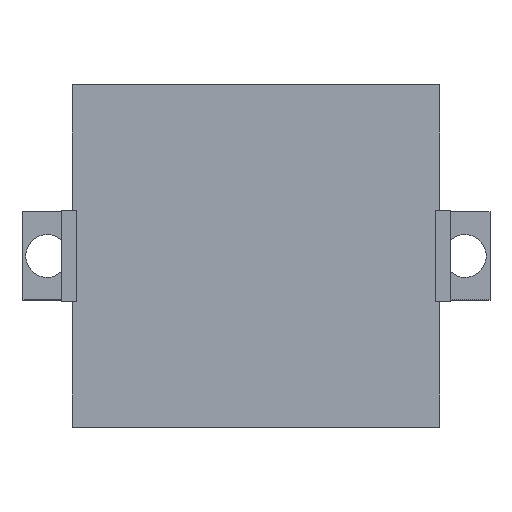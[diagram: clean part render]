
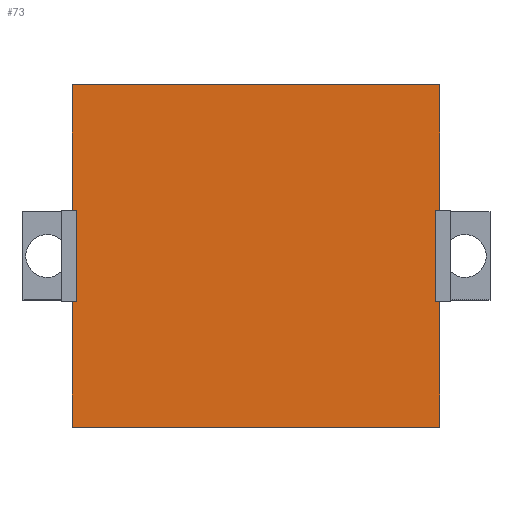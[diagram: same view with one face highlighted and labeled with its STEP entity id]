
A CAD part, top view. The second image highlights one B-rep face of the part: STEP entity #73.
In plain terms, the highlighted planar face has unit normal (0, 0, 1).
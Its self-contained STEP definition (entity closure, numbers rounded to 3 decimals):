
#21 = EDGE_CURVE('',#22,#24,#26,.T.);
#22 = VERTEX_POINT('',#23);
#23 = CARTESIAN_POINT('',(-14.6,26.175,22.8));
#24 = VERTEX_POINT('',#25);
#25 = CARTESIAN_POINT('',(-14.6,36.135,22.8));
#26 = LINE('',#27,#28);
#27 = CARTESIAN_POINT('',(-14.6,26.175,22.8));
#28 = VECTOR('',#29,1.);
#29 = DIRECTION('',(0.,1.,0.));
#73 = ADVANCED_FACE('',(#74),#163,.T.);
#74 = FACE_BOUND('',#75,.T.);
#75 = EDGE_LOOP('',(#76,#77,#85,#93,#101,#109,#117,#125,#133,#141,#149,
    #157));
#76 = ORIENTED_EDGE('',*,*,#21,.F.);
#77 = ORIENTED_EDGE('',*,*,#78,.T.);
#78 = EDGE_CURVE('',#22,#79,#81,.T.);
#79 = VERTEX_POINT('',#80);
#80 = CARTESIAN_POINT('',(14.6,26.175,22.8));
#81 = LINE('',#82,#83);
#82 = CARTESIAN_POINT('',(-14.6,26.175,22.8));
#83 = VECTOR('',#84,1.);
#84 = DIRECTION('',(1.,0.,0.));
#85 = ORIENTED_EDGE('',*,*,#86,.T.);
#86 = EDGE_CURVE('',#79,#87,#89,.T.);
#87 = VERTEX_POINT('',#88);
#88 = CARTESIAN_POINT('',(14.6,36.135,22.8));
#89 = LINE('',#90,#91);
#90 = CARTESIAN_POINT('',(14.6,26.175,22.8));
#91 = VECTOR('',#92,1.);
#92 = DIRECTION('',(0.,1.,0.));
#93 = ORIENTED_EDGE('',*,*,#94,.T.);
#94 = EDGE_CURVE('',#87,#95,#97,.T.);
#95 = VERTEX_POINT('',#96);
#96 = CARTESIAN_POINT('',(14.3,36.135,22.8));
#97 = LINE('',#98,#99);
#98 = CARTESIAN_POINT('',(-0.15,36.135,22.8));
#99 = VECTOR('',#100,1.);
#100 = DIRECTION('',(-1.,0.,0.));
#101 = ORIENTED_EDGE('',*,*,#102,.T.);
#102 = EDGE_CURVE('',#95,#103,#105,.T.);
#103 = VERTEX_POINT('',#104);
#104 = CARTESIAN_POINT('',(14.3,43.415,22.8));
#105 = LINE('',#106,#107);
#106 = CARTESIAN_POINT('',(14.3,31.155,22.8));
#107 = VECTOR('',#108,1.);
#108 = DIRECTION('',(0.,1.,0.));
#109 = ORIENTED_EDGE('',*,*,#110,.F.);
#110 = EDGE_CURVE('',#111,#103,#113,.T.);
#111 = VERTEX_POINT('',#112);
#112 = CARTESIAN_POINT('',(14.6,43.415,22.8));
#113 = LINE('',#114,#115);
#114 = CARTESIAN_POINT('',(-0.15,43.415,22.8));
#115 = VECTOR('',#116,1.);
#116 = DIRECTION('',(-1.,0.,0.));
#117 = ORIENTED_EDGE('',*,*,#118,.T.);
#118 = EDGE_CURVE('',#111,#119,#121,.T.);
#119 = VERTEX_POINT('',#120);
#120 = CARTESIAN_POINT('',(14.6,53.375,22.8));
#121 = LINE('',#122,#123);
#122 = CARTESIAN_POINT('',(14.6,26.175,22.8));
#123 = VECTOR('',#124,1.);
#124 = DIRECTION('',(0.,1.,0.));
#125 = ORIENTED_EDGE('',*,*,#126,.F.);
#126 = EDGE_CURVE('',#127,#119,#129,.T.);
#127 = VERTEX_POINT('',#128);
#128 = CARTESIAN_POINT('',(-14.6,53.375,22.8));
#129 = LINE('',#130,#131);
#130 = CARTESIAN_POINT('',(-14.6,53.375,22.8));
#131 = VECTOR('',#132,1.);
#132 = DIRECTION('',(1.,0.,0.));
#133 = ORIENTED_EDGE('',*,*,#134,.F.);
#134 = EDGE_CURVE('',#135,#127,#137,.T.);
#135 = VERTEX_POINT('',#136);
#136 = CARTESIAN_POINT('',(-14.6,43.415,22.8));
#137 = LINE('',#138,#139);
#138 = CARTESIAN_POINT('',(-14.6,26.175,22.8));
#139 = VECTOR('',#140,1.);
#140 = DIRECTION('',(0.,1.,0.));
#141 = ORIENTED_EDGE('',*,*,#142,.F.);
#142 = EDGE_CURVE('',#143,#135,#145,.T.);
#143 = VERTEX_POINT('',#144);
#144 = CARTESIAN_POINT('',(-14.3,43.415,22.8));
#145 = LINE('',#146,#147);
#146 = CARTESIAN_POINT('',(-15.05,43.415,22.8));
#147 = VECTOR('',#148,1.);
#148 = DIRECTION('',(-1.,0.,0.));
#149 = ORIENTED_EDGE('',*,*,#150,.F.);
#150 = EDGE_CURVE('',#151,#143,#153,.T.);
#151 = VERTEX_POINT('',#152);
#152 = CARTESIAN_POINT('',(-14.3,36.135,22.8));
#153 = LINE('',#154,#155);
#154 = CARTESIAN_POINT('',(-14.3,31.155,22.8));
#155 = VECTOR('',#156,1.);
#156 = DIRECTION('',(0.,1.,0.));
#157 = ORIENTED_EDGE('',*,*,#158,.T.);
#158 = EDGE_CURVE('',#151,#24,#159,.T.);
#159 = LINE('',#160,#161);
#160 = CARTESIAN_POINT('',(-15.05,36.135,22.8));
#161 = VECTOR('',#162,1.);
#162 = DIRECTION('',(-1.,0.,0.));
#163 = PLANE('',#164);
#164 = AXIS2_PLACEMENT_3D('',#165,#166,#167);
#165 = CARTESIAN_POINT('',(-14.6,26.175,22.8));
#166 = DIRECTION('',(0.,0.,1.));
#167 = DIRECTION('',(1.,0.,0.));
